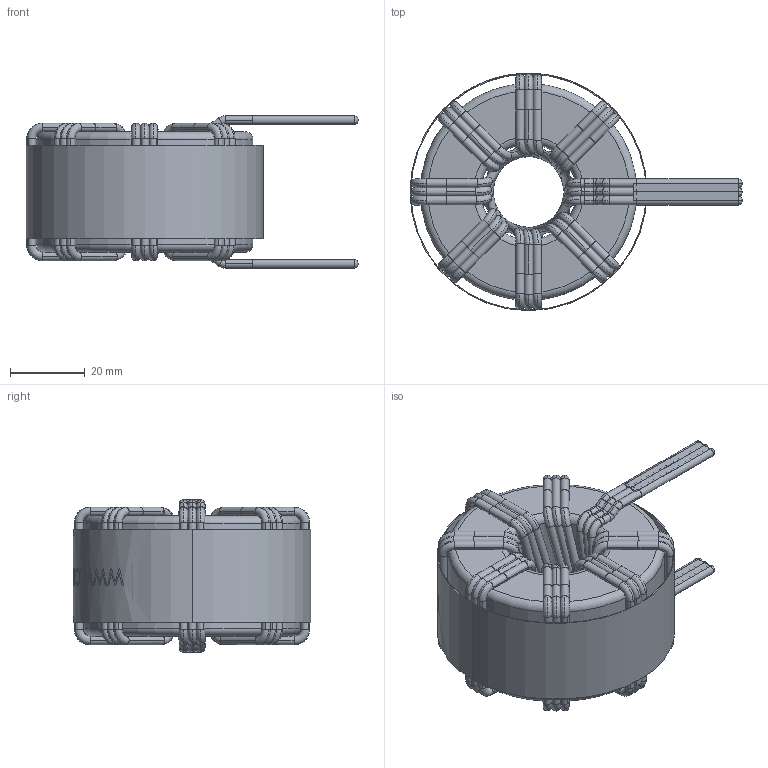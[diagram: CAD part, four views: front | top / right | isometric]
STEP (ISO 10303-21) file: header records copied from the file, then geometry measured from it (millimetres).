
FILE_DESCRIPTION (( 'STEP AP214' ), '1' );
FILE_NAME ('HF5712-350M-90AV.step', '2021-03-04T09:53:07', ( '' ), ( '' ), 'SwSTEP 2.0', 'SolidWorks 2015', '' );
FILE_SCHEMA (( 'AUTOMOTIVE_DESIGN' ));
Length unit declared in the file: millimetre
Products named in the file (5): EPOXY; HF5712-350M-90AV; CORE; WRAPPER; WINDING
Assembly tree (4 placements, depth 2):
  HF5712-350M-90AV
    CORE
    WINDING
    WRAPPER
    EPOXY
Bounding box: 88.91 x 63.53 x 40.8 mm (x, y, z)
Volume: 79873.9 mm3; surface area: 42433.8 mm2
Topology: 39 solids, 39 shells, 779 faces, 1977 edges, 1292 vertices
Faces by surface type: cylinder 308, torus 240, plane 128, bspline 103
Entity records: 42040 total; most frequent: CARTESIAN_POINT 15517, DIRECTION 4269, ORIENTED_EDGE 3954, EDGE_CURVE 1977, AXIS2_PLACEMENT_3D 1965, VERTEX_POINT 1292, CIRCLE 1282, EDGE_LOOP 799
